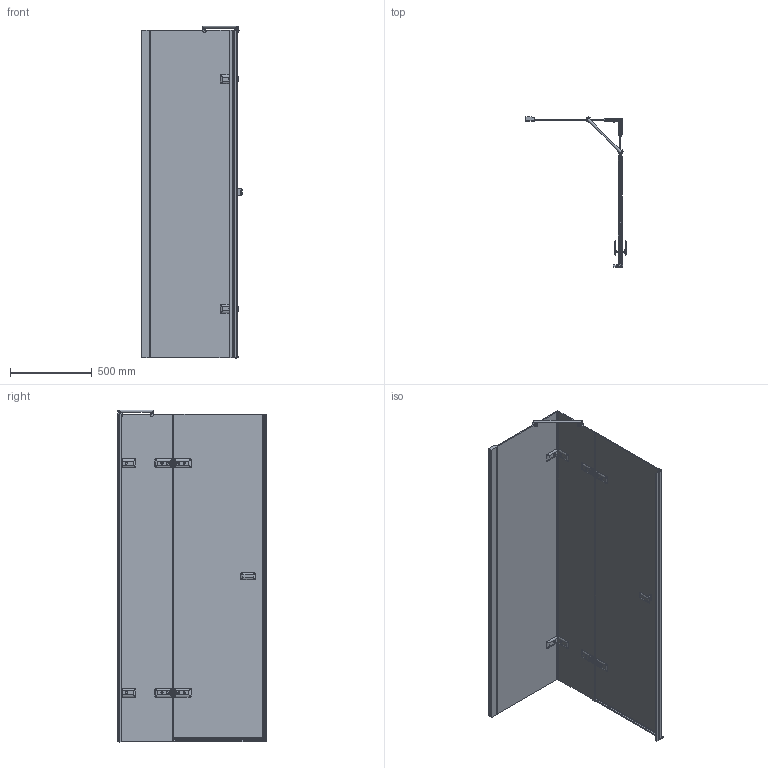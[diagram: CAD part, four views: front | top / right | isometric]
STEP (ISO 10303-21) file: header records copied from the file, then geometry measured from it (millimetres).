
FILE_DESCRIPTION(/* description */ (''),/* implementation_level */ '2;1');
FILE_NAME(/* name */ 'E:\Работа\Сергей\Душевые кабинки\! Работа\36\TREND SQUARE GK-883PGS\TREND SQUARE GK-883PGS правая модель\TREND SQUARE GK-883PGS ПРАВАЯ-3D.stp',/* time_stamp */ '2018-02-16T22:39:19+03:00',/* author */ ('PC'),/* organization */ (''),/* preprocessor_version */ 'ST-DEVELOPER v15.2',/* originating_system */ 'Autodesk Inventor 2014',/* authorisation */ '');
FILE_SCHEMA (('AUTOMOTIVE_DESIGN { 1 0 10303 214 3 1 1 }'));
Products named in the file (1): TREND SQUARE GK-883PGS ПРАВАЯ-
3D
Bounding box: 612.64 x 913.8 x 2026 mm (x, y, z)
Volume: 24344484 mm3; surface area: 6542777.5 mm2
Topology: 8 solids, 8 shells, 1426 faces, 3761 edges, 2316 vertices
Faces by surface type: plane 836, cylinder 351, bspline 163, torus 41, cone 18, sphere 17
Full cylindrical faces by diameter (mm): 6 x2, 9 x8, 12 x2, 13 x2, 15 x1, 20 x2
Entity records: 62016 total; most frequent: CARTESIAN_POINT 26503, ORIENTED_EDGE 7288, DIRECTION 6814, EDGE_CURVE 3641, VERTEX_POINT 2290, AXIS2_PLACEMENT_3D 2279, LINE 2256, VECTOR 2256
